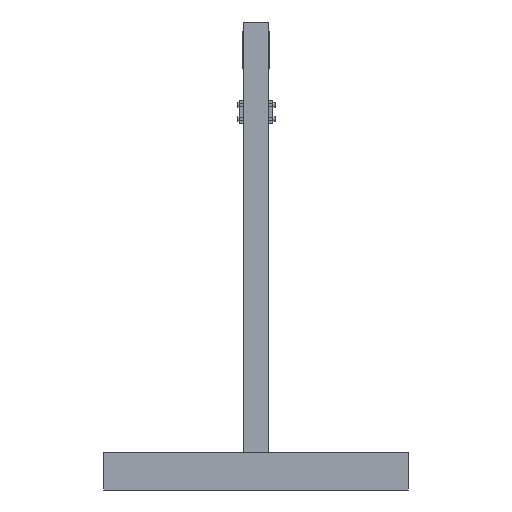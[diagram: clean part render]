
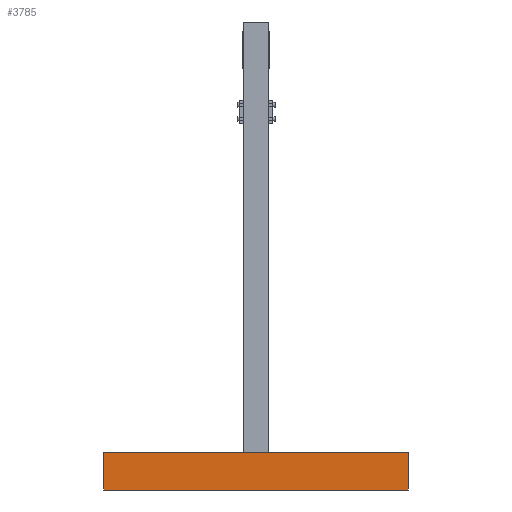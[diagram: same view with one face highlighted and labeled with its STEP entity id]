
A CAD part, left-side view. The second image highlights one B-rep face of the part: STEP entity #3785.
In plain terms, the highlighted planar face has unit normal (-1, 0, 0).
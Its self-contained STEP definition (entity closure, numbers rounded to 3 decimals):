
#3785 = ADVANCED_FACE('',(#3786),#3820,.F.);
#3786 = FACE_BOUND('',#3787,.F.);
#3787 = EDGE_LOOP('',(#3788,#3798,#3806,#3814));
#3788 = ORIENTED_EDGE('',*,*,#3789,.F.);
#3789 = EDGE_CURVE('',#3790,#3792,#3794,.T.);
#3790 = VERTEX_POINT('',#3791);
#3791 = CARTESIAN_POINT('',(205.,-325.,0.));
#3792 = VERTEX_POINT('',#3793);
#3793 = CARTESIAN_POINT('',(205.,-325.,80.));
#3794 = LINE('',#3795,#3796);
#3795 = CARTESIAN_POINT('',(205.,-325.,0.));
#3796 = VECTOR('',#3797,1.);
#3797 = DIRECTION('',(0.,0.,1.));
#3798 = ORIENTED_EDGE('',*,*,#3799,.T.);
#3799 = EDGE_CURVE('',#3790,#3800,#3802,.T.);
#3800 = VERTEX_POINT('',#3801);
#3801 = CARTESIAN_POINT('',(205.,325.,0.));
#3802 = LINE('',#3803,#3804);
#3803 = CARTESIAN_POINT('',(205.,-325.,0.));
#3804 = VECTOR('',#3805,1.);
#3805 = DIRECTION('',(0.,1.,0.));
#3806 = ORIENTED_EDGE('',*,*,#3807,.T.);
#3807 = EDGE_CURVE('',#3800,#3808,#3810,.T.);
#3808 = VERTEX_POINT('',#3809);
#3809 = CARTESIAN_POINT('',(205.,325.,80.));
#3810 = LINE('',#3811,#3812);
#3811 = CARTESIAN_POINT('',(205.,325.,0.));
#3812 = VECTOR('',#3813,1.);
#3813 = DIRECTION('',(0.,0.,1.));
#3814 = ORIENTED_EDGE('',*,*,#3815,.F.);
#3815 = EDGE_CURVE('',#3792,#3808,#3816,.T.);
#3816 = LINE('',#3817,#3818);
#3817 = CARTESIAN_POINT('',(205.,-325.,80.));
#3818 = VECTOR('',#3819,1.);
#3819 = DIRECTION('',(0.,1.,0.));
#3820 = PLANE('',#3821);
#3821 = AXIS2_PLACEMENT_3D('',#3822,#3823,#3824);
#3822 = CARTESIAN_POINT('',(205.,-325.,0.));
#3823 = DIRECTION('',(1.,0.,0.));
#3824 = DIRECTION('',(0.,0.,1.));
